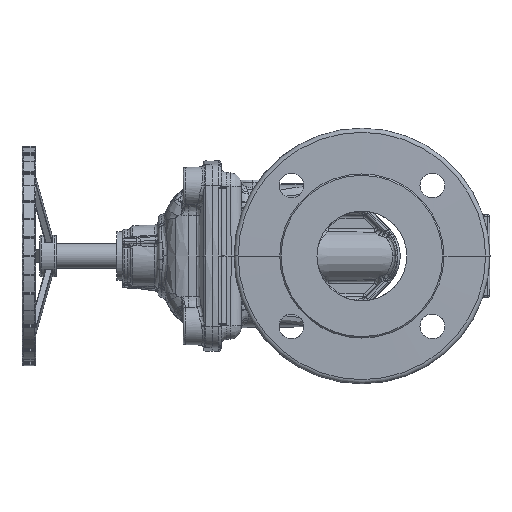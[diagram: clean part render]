
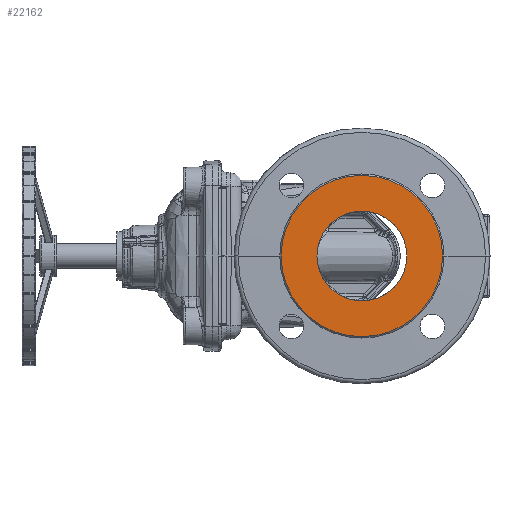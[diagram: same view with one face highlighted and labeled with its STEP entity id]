
A CAD part, left-side view. The second image highlights one B-rep face of the part: STEP entity #22162.
In plain terms, the highlighted planar face has unit normal (-1, 0, 0).
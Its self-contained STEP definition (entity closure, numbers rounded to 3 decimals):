
#3183 = DIRECTION ( 'NONE',  ( -1., 0., 0. ) ) ;
#5363 = FACE_BOUND ( 'NONE', #40692, .T. ) ;
#6683 = DIRECTION ( 'NONE',  ( 0., -1., 0. ) ) ;
#7134 = AXIS2_PLACEMENT_3D ( 'NONE', #31110, #3183, #13768 ) ;
#9067 = DIRECTION ( 'NONE',  ( 0., -1., 0. ) ) ;
#9574 = AXIS2_PLACEMENT_3D ( 'NONE', #75091, #74528, #6683 ) ;
#13717 = CARTESIAN_POINT ( 'NONE',  ( -85., 0., 0. ) ) ;
#13768 = DIRECTION ( 'NONE',  ( 0., -1., 0. ) ) ;
#20379 = CIRCLE ( 'NONE', #43559, 58.715 ) ;
#22162 = ADVANCED_FACE ( 'NONE', ( #107986, #5363 ), #28932, .T. ) ;
#28932 = PLANE ( 'NONE',  #7134 ) ;
#31110 = CARTESIAN_POINT ( 'NONE',  ( -85., -104.634, -125. ) ) ;
#35147 = DIRECTION ( 'NONE',  ( 1., 0., 0. ) ) ;
#36111 = EDGE_CURVE ( 'NONE', #36720, #107903, #68448, .T. ) ;
#36720 = VERTEX_POINT ( 'NONE', #85824 ) ;
#38618 = ORIENTED_EDGE ( 'NONE', *, *, #95772, .F. ) ;
#40692 = EDGE_LOOP ( 'NONE', ( #49995, #46742 ) ) ;
#40826 = VERTEX_POINT ( 'NONE', #110495 ) ;
#41903 = CARTESIAN_POINT ( 'NONE',  ( -85., 0., 0. ) ) ;
#41905 = ORIENTED_EDGE ( 'NONE', *, *, #104414, .F. ) ;
#43559 = AXIS2_PLACEMENT_3D ( 'NONE', #13717, #47896, #91119 ) ;
#46742 = ORIENTED_EDGE ( 'NONE', *, *, #36111, .T. ) ;
#47896 = DIRECTION ( 'NONE',  ( 1., 0., 0. ) ) ;
#49830 = EDGE_LOOP ( 'NONE', ( #41905, #38618 ) ) ;
#49995 = ORIENTED_EDGE ( 'NONE', *, *, #95204, .T. ) ;
#61066 = CARTESIAN_POINT ( 'NONE',  ( -85., 58.715, 0. ) ) ;
#67165 = DIRECTION ( 'NONE',  ( 0., -1., 0. ) ) ;
#67815 = AXIS2_PLACEMENT_3D ( 'NONE', #85897, #102166, #9067 ) ;
#68448 = CIRCLE ( 'NONE', #97128, 32.662 ) ;
#74528 = DIRECTION ( 'NONE',  ( 1., 0., 0. ) ) ;
#75091 = CARTESIAN_POINT ( 'NONE',  ( -85., 0., 0. ) ) ;
#85824 = CARTESIAN_POINT ( 'NONE',  ( -85., 32.662, 0. ) ) ;
#85897 = CARTESIAN_POINT ( 'NONE',  ( -85., 0., 0. ) ) ;
#87523 = CIRCLE ( 'NONE', #67815, 58.715 ) ;
#91119 = DIRECTION ( 'NONE',  ( 0., -1., 0. ) ) ;
#91355 = VERTEX_POINT ( 'NONE', #61066 ) ;
#95204 = EDGE_CURVE ( 'NONE', #107903, #36720, #97408, .T. ) ;
#95772 = EDGE_CURVE ( 'NONE', #40826, #91355, #20379, .T. ) ;
#97128 = AXIS2_PLACEMENT_3D ( 'NONE', #41903, #35147, #67165 ) ;
#97408 = CIRCLE ( 'NONE', #9574, 32.662 ) ;
#98983 = CARTESIAN_POINT ( 'NONE',  ( -85., -32.662, 0. ) ) ;
#102166 = DIRECTION ( 'NONE',  ( 1., 0., 0. ) ) ;
#104414 = EDGE_CURVE ( 'NONE', #91355, #40826, #87523, .T. ) ;
#107903 = VERTEX_POINT ( 'NONE', #98983 ) ;
#107986 = FACE_OUTER_BOUND ( 'NONE', #49830, .T. ) ;
#110495 = CARTESIAN_POINT ( 'NONE',  ( -85., -58.715, 0. ) ) ;
